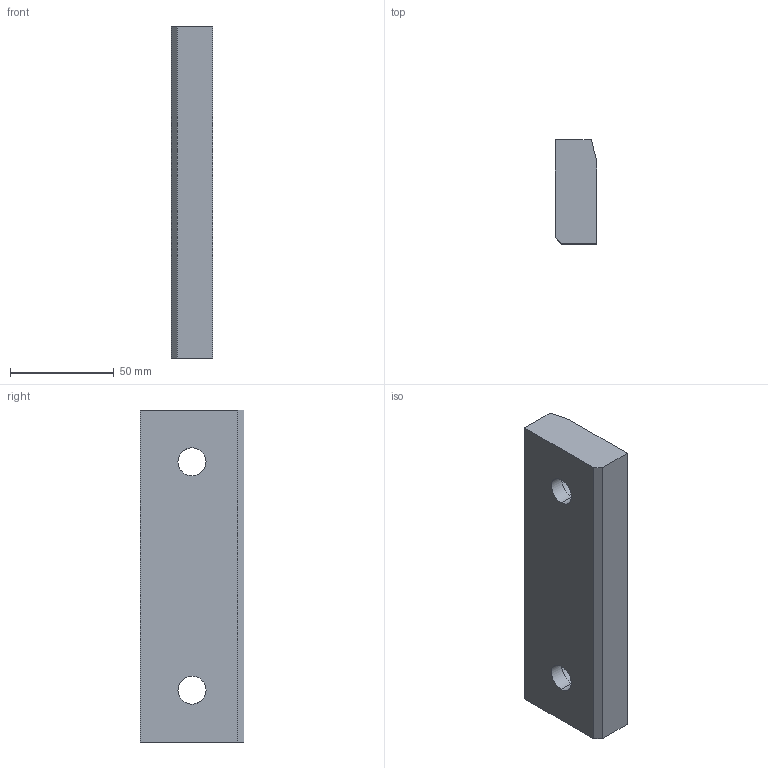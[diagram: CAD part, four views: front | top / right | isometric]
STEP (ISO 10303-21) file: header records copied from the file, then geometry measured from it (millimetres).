
FILE_DESCRIPTION(('CATIA V5 STEP Exchange'),'2;1');
FILE_NAME('C:\Users\borellobunino\Desktop\3D X SITO CF\A915\GSB_OILLESS_G22501160050\STEP-2.03\A915-160X50.stp','2019-07-14T14:06:45+00:00',('none'),('none'),'CATIA Version 5 Release 20 GA (IN-10)','CATIA V5 STEP AP203','none');
FILE_SCHEMA(('CONFIG_CONTROL_DESIGN'));
Length unit declared in the file: millimetre
Products named in the file (1): A915-160X50
Bounding box: 20 x 50 x 160 mm (x, y, z)
Volume: 146702.3 mm3; surface area: 25210.5 mm2
Topology: 1 solids, 1 shells, 23 faces, 73 edges, 54 vertices
Faces by surface type: plane 10, cylinder 9, torus 4
Entity records: 1057 total; most frequent: CARTESIAN_POINT 375, ORIENTED_EDGE 146, DIRECTION 103, EDGE_CURVE 73, AXIS2_PLACEMENT_3D 54, VERTEX_POINT 54, CIRCLE 30, EDGE_LOOP 29
